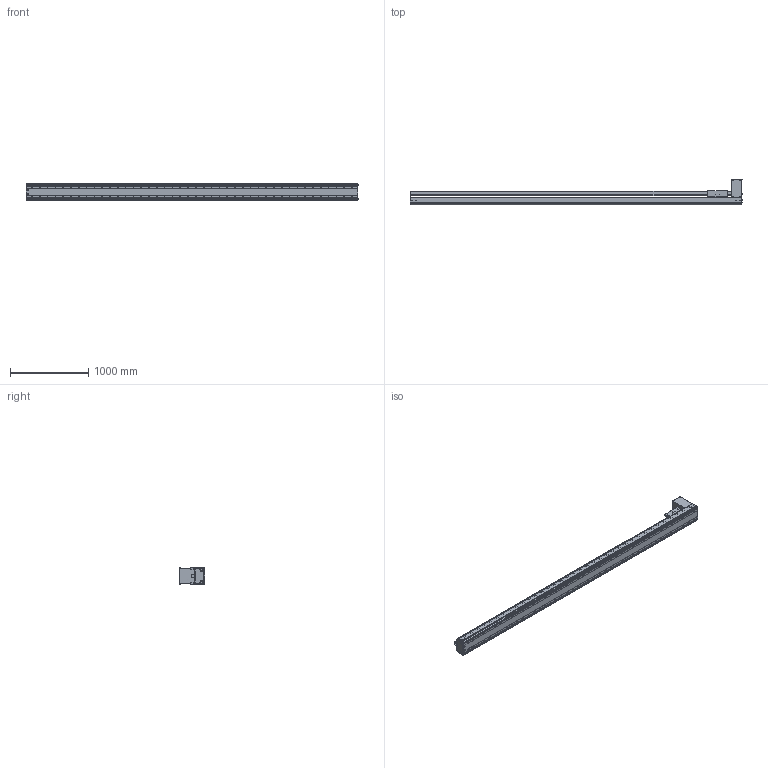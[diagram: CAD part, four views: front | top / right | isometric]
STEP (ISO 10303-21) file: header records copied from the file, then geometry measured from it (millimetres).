
FILE_DESCRIPTION((''),'2;1');
FILE_NAME('BE60J-BT-M19N-W75_IGS_PRT','2017-06-18T',(' '),(''),'PRO/ENGINEER BY PARAMETRIC TECHNOLOGY CORPORATION, 2015030','PRO/ENGINEER BY PARAMETRIC TECHNOLOGY CORPORATION, 2015030','');
FILE_SCHEMA(('CONFIG_CONTROL_DESIGN'));
Products named in the file (1): BE60J-BT-M19N-W75_IGS_PRT
Bounding box: 4254.4 x 327.5 x 214 mm (x, y, z)
Volume: 33377778.4 mm3; surface area: 9796556.3 mm2
Topology: 2 solids, 331 shells, 2934 faces, 8649 edges, 5791 vertices
Faces by surface type: cylinder 1628, plane 978, cone 232, sphere 48, torus 48
Entity records: 101821 total; most frequent: CARTESIAN_POINT 24337, DIRECTION 15879, ORIENTED_EDGE 15540, EDGE_CURVE 8412, AXIS2_PLACEMENT_3D 6092, VERTEX_POINT 5782, EDGE_LOOP 3704, VECTOR 3695
